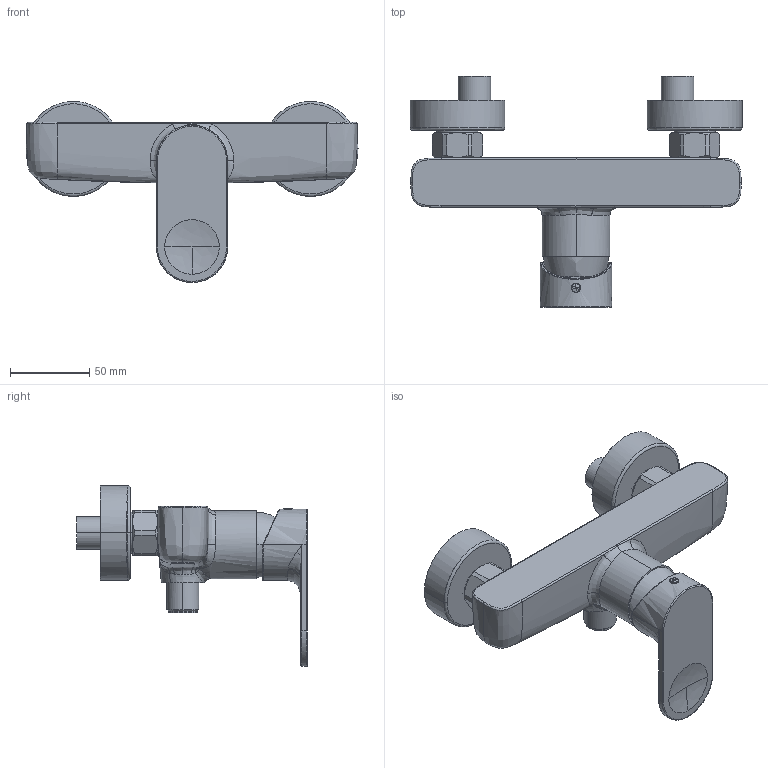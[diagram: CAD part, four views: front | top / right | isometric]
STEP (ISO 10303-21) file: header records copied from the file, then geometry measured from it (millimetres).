
FILE_DESCRIPTION(/* description */ (''),/* implementation_level */ '2;1');
FILE_NAME(/* name */ 'B34230000010_neu',/* time_stamp */ '2019-02-26T13:06:44+01:00',/* author */ (''),/* organization */ (''),/* preprocessor_version */ 'ST-DEVELOPER v15',/* originating_system */ '',/* authorisation */ '');
FILE_SCHEMA (('AUTOMOTIVE_DESIGN'));
Length unit declared in the file: millimetre
Products named in the file (1): Document
Bounding box: 210 x 146 x 114.48 mm (x, y, z)
Surface area: 79769.4 mm2 (no closed solid volume)
Topology: 0 solids, 11 shells, 346 faces, 814 edges, 475 vertices
Faces by surface type: bspline 346
Entity records: 34228 total; most frequent: CARTESIAN_POINT 24304, B_SPLINE_CURVE_WITH_KNOTS 1940, ORIENTED_EDGE 1566, PCURVE 1566, DEFINITIONAL_REPRESENTATION 1566, SURFACE_CURVE 803, EDGE_CURVE 803, VERTEX_POINT 475
